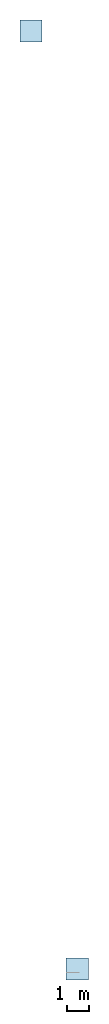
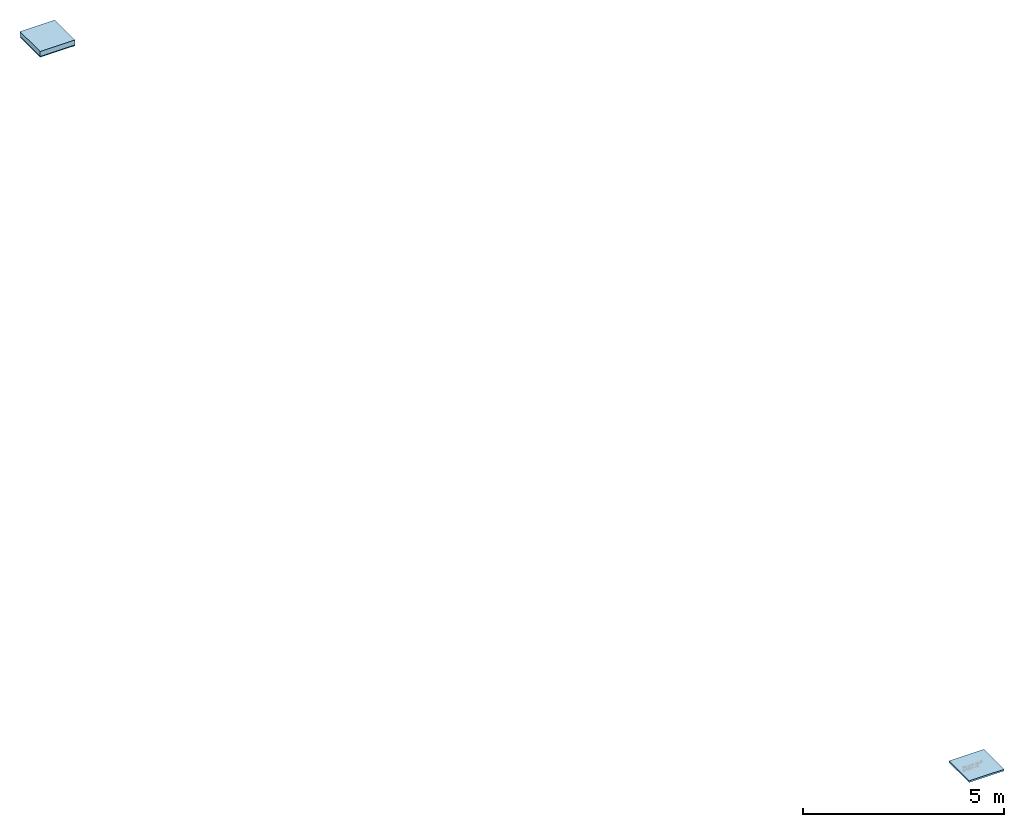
# Not in any storey, part 1 of 2: 3 slabs, 4 elements without a shape of their own.
"""IFC2X3 model written with IfcOpenShell, lengths in metres."""

import ifcopenshell
import ifcopenshell.guid

model = None  # the IFC model being written
_history = None  # IfcOwnerHistory: only IFC2X3 demands one
_inside = {}  # id of a spatial element -> (the spatial element, [elements in it])
_under = {}  # id of a project, library or spatial element -> (it, [spatial elements below it])
_declared = {}  # id of a project -> (the project, [libraries it declares])
_typed = {}  # id of a type object -> (the type object, [elements of that type])
_made_of = {}  # id of a material, layer set ... -> (it, [elements and type objects made of it])


def new_model(schema):
    """Start an empty IFC model of exactly this schema.

    Asked for "IFC4X3", IfcOpenShell would pick the latest addendum, in which some entities
    have other attributes; the version numbers below select the first issue.
    IFC2X3 requires an IfcOwnerHistory on every rooted entity: one is made here for all.
    """
    global model, _history
    if schema == "IFC4X3":
        model = ifcopenshell.file(schema_version=(4, 3, 0, 0))
    else:
        model = ifcopenshell.file(schema=schema)
    _inside.clear()
    _under.clear()
    _declared.clear()
    _typed.clear()
    _made_of.clear()
    _history = None
    if model.schema == "IFC2X3":
        org = make("IfcOrganization", Name="unknown")
        user = make(
            "IfcPersonAndOrganization",
            ThePerson=make("IfcPerson", FamilyName="unknown"),
            TheOrganization=org,
        )
        app = make(
            "IfcApplication",
            ApplicationDeveloper=org,
            Version="unknown",
            ApplicationFullName="unknown",
            ApplicationIdentifier="unknown",
        )
        _history = make(
            "IfcOwnerHistory",
            OwningUser=user,
            OwningApplication=app,
            ChangeAction="ADDED",
            CreationDate=0,
        )
    return model


def make(cls, **values):
    """One entity of the class cls with the attributes given. An attribute that is None is left unset."""
    return model.create_entity(
        cls, **{name: value for name, value in values.items() if value is not None}
    )


def entity(cls, *values):
    """Any entity or typed value of the class cls, its attributes in the order of the schema. None: left unset."""
    e = model.create_entity(cls)
    for i, value in enumerate(values):
        if value is not None:
            e[i] = value
    return e


def rooted(cls, **values):
    """An entity with a GlobalId (a new one), such as an element, a storey or a relation."""
    return make(cls, GlobalId=ifcopenshell.guid.new(), OwnerHistory=_history, **values)


def si_unit(unit_type, name, prefix=None):
    """IfcSIUnit, for example si_unit("LENGTHUNIT", "METRE", prefix="MILLI")."""
    return make("IfcSIUnit", UnitType=unit_type, Prefix=prefix, Name=name)


def converted_unit(unit_type, name, factor, base, dimensions=None, offset=None):
    """IfcConversionBasedUnit, such as the inch: factor (a typed value) times the base unit."""
    return make(
        "IfcConversionBasedUnit"
        if offset is None
        else "IfcConversionBasedUnitWithOffset",
        ConversionOffset=offset,
        Dimensions=None
        if dimensions is None
        else entity("IfcDimensionalExponents", *dimensions),
        UnitType=unit_type,
        Name=name,
        ConversionFactor=make(
            "IfcMeasureWithUnit", ValueComponent=factor, UnitComponent=base
        ),
    )


def derived_unit(unit_type, elements):
    """IfcDerivedUnit: a product of units, each with its exponent."""
    return make(
        "IfcDerivedUnit",
        Elements=[
            make("IfcDerivedUnitElement", Unit=unit, Exponent=power)
            for unit, power in elements
        ],
        UnitType=unit_type,
    )


def assignment(units):
    """IfcUnitAssignment: the units of a project."""
    return None if units is None else make("IfcUnitAssignment", Units=units)


def point(xyz):
    """IfcCartesianPoint."""
    return None if xyz is None else make("IfcCartesianPoint", Coordinates=xyz)


def direction(xyz):
    """IfcDirection."""
    return None if xyz is None else make("IfcDirection", DirectionRatios=xyz)


def frame(location, z_axis=None, x_axis=None):
    """IfcAxis2Placement3D, a coordinate frame: its origin and axes. An axis left out is left unset."""
    return make(
        "IfcAxis2Placement3D",
        Location=point(location),
        Axis=direction(z_axis),
        RefDirection=direction(x_axis),
    )


def frame_2d(location, x_axis=None):
    """IfcAxis2Placement2D, a coordinate frame in the plane: its origin and x axis."""
    return make(
        "IfcAxis2Placement2D", Location=point(location), RefDirection=direction(x_axis)
    )


def origin():
    """The frame at (0, 0, 0) with its axes left unset."""
    return frame((0.0, 0.0, 0.0))


def place(relative_to, where):
    """IfcLocalPlacement: puts the frame where relative to a parent placement (None: the world)."""
    return make(
        "IfcLocalPlacement", PlacementRelTo=relative_to, RelativePlacement=where
    )


def context(
    kind, dimensions, precision=None, world=None, true_north=None, identifier=None
):
    """IfcGeometricRepresentationContext, for example the 3D "Model" context."""
    return make(
        "IfcGeometricRepresentationContext",
        ContextIdentifier=identifier,
        ContextType=kind,
        CoordinateSpaceDimension=dimensions,
        Precision=precision,
        WorldCoordinateSystem=world,
        TrueNorth=true_north,
    )


def subcontext(parent, identifier, kind, view, scale=None):
    """IfcGeometricRepresentationSubContext, for example "Body" below "Model"."""
    return make(
        "IfcGeometricRepresentationSubContext",
        ContextIdentifier=identifier,
        ContextType=kind,
        ParentContext=parent,
        TargetScale=scale,
        TargetView=view,
    )


def project(units=None, contexts=None):
    """IfcProject with its units and contexts."""
    return rooted(
        "IfcProject",
        Name="project",
        RepresentationContexts=contexts,
        UnitsInContext=assignment(units),
    )


def spatial(cls, under=None, at=None, **own):
    """A site, building, storey or space (cls), placed at a placement, below another one or the project."""
    s = rooted(cls, ObjectPlacement=at, **own)
    if under is not None:
        _under.setdefault(under.id(), (under, []))[1].append(s)
    return s


def profile(cls, at=None, kind="AREA", **sizes):
    """A parametric profile (cls). Its sizes go by their IFC names, for example OverallWidth=200.0."""
    return make(cls, ProfileType=kind, Position=at, **sizes)


def rectangle(**sizes):
    """IfcRectangleProfileDef."""
    return profile("IfcRectangleProfileDef", **sizes)


def extrude(swept, where, along, depth):
    """IfcExtrudedAreaSolid: the profile swept, set in the frame where, extruded along a direction by depth."""
    return make(
        "IfcExtrudedAreaSolid",
        SweptArea=swept,
        Position=where,
        ExtrudedDirection=direction(along),
        Depth=depth,
    )


def shape(context_of_items, identifier, shape_type, items):
    """IfcShapeRepresentation: the items that make up one representation, for example the "Body"."""
    return make(
        "IfcShapeRepresentation",
        ContextOfItems=context_of_items,
        RepresentationIdentifier=identifier,
        RepresentationType=shape_type,
        Items=items,
    )


def material(Name=None, Category=None):
    """IfcMaterial."""
    return make("IfcMaterial", Name=Name, Category=Category)


def layer(
    of_material, thickness, ventilated=None, Name=None, Category=None, Priority=None
):
    """IfcMaterialLayer: one layer of a wall or slab, of a material (None: an air gap)."""
    return make(
        "IfcMaterialLayer",
        Material=of_material,
        LayerThickness=thickness,
        IsVentilated=ventilated,
        Name=Name,
        Category=Category,
        Priority=Priority,
    )


def layer_set(layers, Name=None):
    """IfcMaterialLayerSet."""
    return make("IfcMaterialLayerSet", MaterialLayers=layers, LayerSetName=Name)


def layer_usage(for_layer_set, set_direction, sense, offset, extent=None):
    """IfcMaterialLayerSetUsage: how a layer set lies in its element."""
    return make(
        "IfcMaterialLayerSetUsage",
        ForLayerSet=for_layer_set,
        LayerSetDirection=set_direction,
        DirectionSense=sense,
        OffsetFromReferenceLine=offset,
        ReferenceExtent=extent,
    )


def made_of(thing, what):
    """Note that an element or type object is made of a material, layer set ...; save() writes the relation."""
    if what is not None:
        _made_of.setdefault(what.id(), (what, []))[1].append(thing)
    return thing


def type_object(cls, material=None, **own):
    """A type object (cls), such as IfcWallType, which elements share."""
    return made_of(rooted(cls, **own), material)


def element(
    cls,
    number,
    at=None,
    inside=None,
    cuts=None,
    type_object=None,
    material=None,
    context=None,
    identifier="Body",
    shape_type=None,
    held_by="IfcProductDefinitionShape",
    body=None,
    shapes=None,
    **own,
):
    """One element of the class cls, such as IfcWall. Its Tag is "e" and its number.

    at: its placement. inside: the storey or other place that contains it. cuts: it is an
    opening in that element (IfcRelVoidsElement). A single representation is given by context,
    identifier, shape_type and body (its items); several are given by shapes. held_by: the class
    of the entity that holds the representations. save() writes the other relations.
    """
    e = rooted(cls, Tag="e%d" % number, ObjectPlacement=at, **own)
    if body is not None:
        shapes = [shape(context, identifier, shape_type, body)]
    if shapes is not None:
        e.Representation = make(held_by, Representations=shapes)
    if inside is not None:
        _inside.setdefault(inside.id(), (inside, []))[1].append(e)
    if cuts is not None:
        rooted(
            "IfcRelVoidsElement", RelatingBuildingElement=cuts, RelatedOpeningElement=e
        )
    if type_object is not None:
        _typed.setdefault(type_object.id(), (type_object, []))[1].append(e)
    return made_of(e, material)


def aggregate(whole, parts):
    """IfcRelAggregates: a whole, such as a stair, and the parts it consists of."""
    return rooted("IfcRelAggregates", RelatingObject=whole, RelatedObjects=parts)


def save(model, path):
    """Write the relations noted so far, then the file.

    IfcRelAggregates (storeys below a building ...), IfcRelContainedInSpatialStructure (elements
    in a storey), IfcRelDefinesByType, IfcRelAssociatesMaterial and IfcRelDeclares: one each for
    every whole, place, type object, material and project.
    """
    for whole, parts in _under.values():
        aggregate(whole, parts)
    for where, things in _inside.values():
        rooted(
            "IfcRelContainedInSpatialStructure",
            RelatedElements=things,
            RelatingStructure=where,
        )
    for kind, things in _typed.values():
        rooted("IfcRelDefinesByType", RelatedObjects=things, RelatingType=kind)
    for what, things in _made_of.values():
        rooted("IfcRelAssociatesMaterial", RelatedObjects=things, RelatingMaterial=what)
    for by, libraries in _declared.values():
        rooted("IfcRelDeclares", RelatingContext=by, RelatedDefinitions=libraries)
    model.write(path)


model = new_model("IFC2X3")

# Units and contexts
model_context = context("Model", 3, precision=1e-05, world=origin(), true_north=direction((6.123031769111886e-17, 1.0)))
body_context = subcontext(model_context, "Body", "Model", "MODEL_VIEW")
ifc_project = project(units=[si_unit("LENGTHUNIT", "METRE"), si_unit("AREAUNIT", "SQUARE_METRE"), si_unit("VOLUMEUNIT", "CUBIC_METRE"), converted_unit("PLANEANGLEUNIT", "DEGREE", entity("IfcRatioMeasure", 0.017453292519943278), si_unit("PLANEANGLEUNIT", "RADIAN"), dimensions=[0, 0, 0, 0, 0, 0, 0]), si_unit("MASSUNIT", "GRAM", prefix="KILO"), derived_unit("MASSDENSITYUNIT", [(si_unit("MASSUNIT", "GRAM", prefix="KILO"), 1), (si_unit("LENGTHUNIT", "METRE"), -3)]), derived_unit("IONCONCENTRATIONUNIT", [(si_unit("MASSUNIT", "GRAM", prefix="KILO"), 1), (si_unit("LENGTHUNIT", "METRE"), -3)]), derived_unit("MOMENTOFINERTIAUNIT", [(si_unit("LENGTHUNIT", "METRE"), 4)]), si_unit("TIMEUNIT", "SECOND"), si_unit("FREQUENCYUNIT", "HERTZ"), si_unit("THERMODYNAMICTEMPERATUREUNIT", "DEGREE_CELSIUS"), derived_unit("THERMALTRANSMITTANCEUNIT", [(si_unit("MASSUNIT", "GRAM", prefix="KILO"), 1), (si_unit("THERMODYNAMICTEMPERATUREUNIT", "KELVIN"), -1), (si_unit("TIMEUNIT", "SECOND"), -3)]), derived_unit("THERMALCONDUCTANCEUNIT", [(si_unit("MASSUNIT", "GRAM", prefix="KILO"), 1), (si_unit("THERMODYNAMICTEMPERATUREUNIT", "KELVIN"), -1), (si_unit("TIMEUNIT", "SECOND"), -3), (si_unit("LENGTHUNIT", "METRE"), 1)]), derived_unit("VOLUMETRICFLOWRATEUNIT", [(si_unit("LENGTHUNIT", "METRE"), 3), (si_unit("TIMEUNIT", "SECOND"), -1)]), derived_unit("MASSFLOWRATEUNIT", [(si_unit("MASSUNIT", "GRAM", prefix="KILO"), 1), (si_unit("TIMEUNIT", "SECOND"), -1)]), derived_unit("ROTATIONALFREQUENCYUNIT", [(si_unit("TIMEUNIT", "SECOND"), -1)]), si_unit("ELECTRICCURRENTUNIT", "AMPERE"), si_unit("ELECTRICVOLTAGEUNIT", "VOLT"), si_unit("POWERUNIT", "WATT"), si_unit("FORCEUNIT", "NEWTON", prefix="KILO"), si_unit("ILLUMINANCEUNIT", "LUX"), si_unit("LUMINOUSFLUXUNIT", "LUMEN"), si_unit("LUMINOUSINTENSITYUNIT", "CANDELA"), derived_unit("USERDEFINED", [(si_unit("MASSUNIT", "GRAM", prefix="KILO"), -1), (si_unit("LENGTHUNIT", "METRE"), -2), (si_unit("TIMEUNIT", "SECOND"), 3), (si_unit("LUMINOUSFLUXUNIT", "LUMEN"), 1)]), derived_unit("USERDEFINED", [(si_unit("MASSUNIT", "GRAM", prefix="KILO"), 1), (si_unit("TIMEUNIT", "SECOND"), -3), (si_unit("LENGTHUNIT", "METRE"), 3), (si_unit("ELECTRICCURRENTUNIT", "AMPERE"), -2)]), derived_unit("SOUNDPOWERUNIT", [(si_unit("MASSUNIT", "GRAM", prefix="KILO"), 1), (si_unit("TIMEUNIT", "SECOND"), -3), (si_unit("LENGTHUNIT", "METRE"), 2)]), derived_unit("SOUNDPRESSUREUNIT", [(si_unit("MASSUNIT", "GRAM", prefix="KILO"), 1), (si_unit("LENGTHUNIT", "METRE"), -1), (si_unit("TIMEUNIT", "SECOND"), -2)]), derived_unit("LINEARVELOCITYUNIT", [(si_unit("LENGTHUNIT", "METRE"), 1), (si_unit("TIMEUNIT", "SECOND"), -1)]), si_unit("PRESSUREUNIT", "PASCAL"), derived_unit("USERDEFINED", [(si_unit("MASSUNIT", "GRAM", prefix="KILO"), 1), (si_unit("LENGTHUNIT", "METRE"), -2), (si_unit("TIMEUNIT", "SECOND"), -2)]), derived_unit("LINEARFORCEUNIT", [(si_unit("MASSUNIT", "GRAM", prefix="KILO"), 1), (si_unit("TIMEUNIT", "SECOND"), -2)]), derived_unit("PLANARFORCEUNIT", [(si_unit("MASSUNIT", "GRAM", prefix="KILO"), 1), (si_unit("LENGTHUNIT", "METRE"), -1), (si_unit("TIMEUNIT", "SECOND"), -2)]), derived_unit("SPECIFICHEATCAPACITYUNIT", [(si_unit("THERMODYNAMICTEMPERATUREUNIT", "KELVIN"), -1), (si_unit("LENGTHUNIT", "METRE"), 2), (si_unit("TIMEUNIT", "SECOND"), -2)]), derived_unit("HEATINGVALUEUNIT", [(si_unit("LENGTHUNIT", "METRE"), 2), (si_unit("TIMEUNIT", "SECOND"), -2)]), derived_unit("VAPORPERMEABILITYUNIT", [(si_unit("LENGTHUNIT", "METRE"), -1), (si_unit("TIMEUNIT", "SECOND"), 1)]), derived_unit("DYNAMICVISCOSITYUNIT", [(si_unit("MASSUNIT", "GRAM", prefix="KILO"), 1), (si_unit("TIMEUNIT", "SECOND"), -1), (si_unit("LENGTHUNIT", "METRE"), -1)]), derived_unit("THERMALEXPANSIONCOEFFICIENTUNIT", [(si_unit("THERMODYNAMICTEMPERATUREUNIT", "KELVIN"), -1)]), derived_unit("MODULUSOFELASTICITYUNIT", [(si_unit("MASSUNIT", "GRAM", prefix="KILO"), 1), (si_unit("LENGTHUNIT", "METRE"), -1), (si_unit("TIMEUNIT", "SECOND"), -2)]), derived_unit("ISOTHERMALMOISTURECAPACITYUNIT", [(si_unit("LENGTHUNIT", "METRE"), 3), (si_unit("MASSUNIT", "GRAM", prefix="KILO"), -1)]), derived_unit("MOISTUREDIFFUSIVITYUNIT", [(si_unit("TIMEUNIT", "SECOND"), -1), (si_unit("LENGTHUNIT", "METRE"), 2)])], contexts=[model_context])

# Site
site_placement = place(None, origin())
site = spatial("IfcSite", under=ifc_project, at=site_placement, Name="Default", CompositionType="ELEMENT")

# Assembly, roofs, slabs
ifc_material_1 = material(Name="fbim_12400515_AT_025_Vollholz_Bretter_Fichte")
ifc_layer_1 = layer(ifc_material_1, 0.024)
ifc_material_2 = material(Name="fbim_14100500_at_NTR_Zellulose-Einblasdaemmung")
ifc_layer_2 = layer(ifc_material_2, 0.37999999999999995)
ifc_layer_3 = layer(ifc_material_1, 0.024)
ifc_layer_set_1 = layer_set([ifc_layer_1, ifc_layer_2, ifc_layer_3], Name="Basisdach:fbimSg_Roof_sb_WOD_vis_at_NTR_natuREbuilt_DRh_GK3_k_38cm")
ifc_layer_usage = layer_usage(ifc_layer_set_1, "AXIS3", "NEGATIVE", 0.0)
assembly_placement = place(site_placement, origin())
assembly = element("IfcElementAssembly", 1, at=assembly_placement, inside=site, material=ifc_layer_usage, Name="Dächer Baugruppe:fbimSg_Roof_bc_WOD_vis_at_NTR_natuREbuilt_FD-HS-HLÜ-GRÜN-VS_GK3_81cm", ObjectType="Dächer Baugruppe:fbimSg_Roof_bc_WOD_vis_at_NTR_natuREbuilt_FD-HS-HLÜ-GRÜN-VS_GK3_81cm", AssemblyPlace="NOTDEFINED", PredefinedType="USERDEFINED")
roof_1_placement = place(assembly_placement, frame((-2.0942944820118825, 42.5146922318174, -2.8856039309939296)))
roof_1 = element("IfcRoof", 2, at=roof_1_placement, Name="Basisdach:fbimSg_Roof_sb_WOD_vis_at_NTR_natuREbuilt_DRh_GK3_k_38cm", ObjectType="Basisdach:fbimSg_Roof_sb_WOD_vis_at_NTR_natuREbuilt_DRh_GK3_k_38cm", ShapeType="NOTDEFINED")
slab_type_1 = type_object("IfcSlabType", Name="Basisdach:fbimSg_Roof_sb_WOD_vis_at_NTR_natuREbuilt_DRh_GK3_k_38cm", PredefinedType="ROOF")
slab_1_placement = place(roof_1_placement, frame((-2.0942944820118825, 42.5146922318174, -2.8856039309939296)))
slab_1 = element("IfcSlab", 3, at=slab_1_placement, type_object=slab_type_1, material=ifc_layer_set_1, Name="Basisdach:fbimSg_Roof_sb_WOD_vis_at_NTR_natuREbuilt_DRh_GK3_k_38cm", ObjectType="Basisdach:fbimSg_Roof_sb_WOD_vis_at_NTR_natuREbuilt_DRh_GK3_k_38cm", PredefinedType="ROOF", context=body_context, shape_type="SweptSolid", body=[
    extrude(rectangle(XDim=0.9999999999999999, YDim=0.9999999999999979, at=frame_2d((-5.551115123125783e-17, 0.0), x_axis=(1.0, 0.0))), frame((0.5, 0.49999999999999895, 0.0)), (0.0, 0.0, 1.0), 0.15000000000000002),
])
aggregate(roof_1, [slab_1])
ifc_material_3 = material(Name="fbim_20252030_AT_Begruenung_extensiv")
ifc_layer_4 = layer(ifc_material_3, 0.08)
ifc_material_4 = material(Name="fbim_10200515_AT_001_Schutzvlies")
ifc_layer_5 = layer(ifc_material_4, 0.0032)
ifc_material_5 = material(Name="fbim_14052005_AT_EPDM_Abdichtungsbahn")
ifc_layer_6 = layer(ifc_material_5, 0.0017999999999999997)
ifc_layer_7 = layer(ifc_material_4, 0.0008999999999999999)
ifc_layer_8 = layer(ifc_material_1, 0.024)
ifc_material_6 = material(Name="fbim_14100590_AT_001_Luftschicht")
ifc_layer_9 = layer(ifc_material_6, 0.1)
ifc_material_7 = material(Name="fbim_12400520_AT_001_Vollholz_Lattung_Fichte")
ifc_layer_10 = layer(ifc_material_7, 0.1)
ifc_layer_set_2 = layer_set([ifc_layer_4, ifc_layer_5, ifc_layer_6, ifc_layer_7, ifc_layer_8, ifc_layer_9, ifc_layer_10], Name="Basisdach:fbimSg_Roof_dp_INS_vis_at_NTR_natuREbuilt_DRh_GK3_o_12cm")
roof_2_placement = place(assembly_placement, origin())
roof_2 = element("IfcRoof", 4, at=roof_2_placement, material=ifc_layer_set_2, Name="Basisdach:fbimSg_Roof_dp_INS_vis_at_NTR_natuREbuilt_DRh_GK3_o_12cm", ObjectType="Basisdach:fbimSg_Roof_dp_INS_vis_at_NTR_natuREbuilt_DRh_GK3_o_12cm", ShapeType="NOTDEFINED")
slab_type_2 = type_object("IfcSlabType", Name="Basisdach:fbimSg_Roof_dp_INS_vis_at_NTR_natuREbuilt_DRh_GK3_o_12cm", PredefinedType="ROOF")
slab_2_placement = place(assembly_placement, origin())
slab_2 = element("IfcSlab", 5, at=slab_2_placement, type_object=slab_type_2, Name="Basisdach:fbimSg_Roof_dp_INS_vis_at_NTR_natuREbuilt_DRh_GK3_o_12cm:1", ObjectType="Basisdach:fbimSg_Roof_dp_INS_vis_at_NTR_natuREbuilt_DRh_GK3_o_12cm", PredefinedType="ROOF", context=body_context, shape_type="SweptSolid", body=[
    extrude(rectangle(XDim=0.9999999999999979, YDim=0.9999999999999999, at=frame_2d((0.0, -5.551115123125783e-17), x_axis=(1.0, 0.0))), frame((-1.5942944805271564, 43.0146922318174, -2.735604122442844), z_axis=(0.0, 0.0, 1.0), x_axis=(0.0, -1.0, 0.0)), (0.0, 0.0, 1.0), 0.05),
])
aggregate(roof_2, [slab_2])
ifc_material_8 = material(Name="fbim_16101505_AT_Gipsfaserplatte")
ifc_layer_11 = layer(ifc_material_8, 0.0125)
ifc_material_9 = material(Name="fbim_14153005_AT_001_KlebeArmierspachtel_min")
ifc_layer_12 = layer(ifc_material_9, 0.0009999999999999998)
ifc_layer_set_3 = layer_set([ifc_layer_11, ifc_layer_12], Name="Basisdach:fbimSg_Roof_dp_DRW_vis_at_NTR_natuREbuilt_DRh_GK3_u_1,25cm")
roof_3_placement = place(assembly_placement, frame((-2.0942944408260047, 42.5146922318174, -2.8991039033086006)))
roof_3 = element("IfcRoof", 6, at=roof_3_placement, material=ifc_layer_set_3, Name="Basisdach:fbimSg_Roof_dp_DRW_vis_at_NTR_natuREbuilt_DRh_GK3_u_1,25cm", ObjectType="Basisdach:fbimSg_Roof_dp_DRW_vis_at_NTR_natuREbuilt_DRh_GK3_u_1,25cm", ShapeType="NOTDEFINED")
aggregate(assembly, [roof_1, roof_2, roof_3])
slab_type_3 = type_object("IfcSlabType", Name="Basisdach:fbimSg_Roof_dp_DRW_vis_at_NTR_natuREbuilt_DRh_GK3_u_1,25cm", PredefinedType="ROOF")
slab_3_placement = place(roof_3_placement, frame((-2.0942944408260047, 42.5146922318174, -2.8991039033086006)))
slab_3 = element("IfcSlab", 7, at=slab_3_placement, type_object=slab_type_3, material=ifc_layer_set_3, Name="Basisdach:fbimSg_Roof_dp_DRW_vis_at_NTR_natuREbuilt_DRh_GK3_u_1,25cm", ObjectType="Basisdach:fbimSg_Roof_dp_DRW_vis_at_NTR_natuREbuilt_DRh_GK3_u_1,25cm", PredefinedType="ROOF", context=body_context, shape_type="SweptSolid", body=[
    extrude(rectangle(XDim=0.9999999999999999, YDim=0.9999999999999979, at=frame_2d((-5.551115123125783e-17, 0.0), x_axis=(1.0, 0.0))), frame((0.5, 0.49999999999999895, 0.0)), (0.0, 0.0, 1.0), 0.01350000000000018),
])
aggregate(roof_3, [slab_3])

save(model, "model.ifc")
